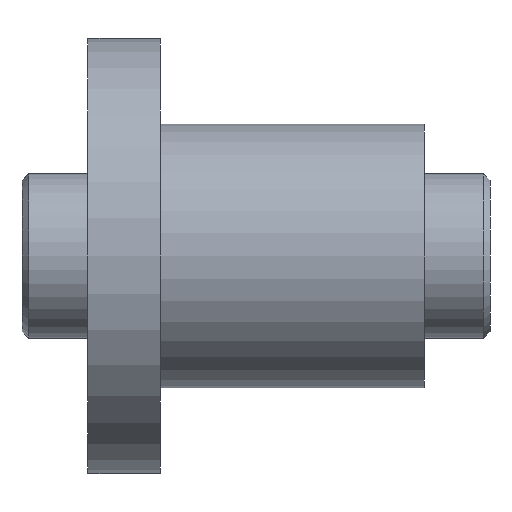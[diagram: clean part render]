
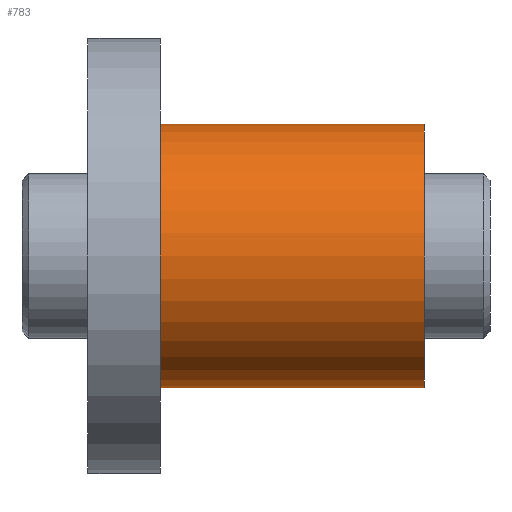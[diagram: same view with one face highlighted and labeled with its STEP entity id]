
A CAD part, front view. The second image highlights one B-rep face of the part: STEP entity #783.
In plain terms, the highlighted cylindrical face has radius 20 mm (diameter 40 mm), a partial arc.
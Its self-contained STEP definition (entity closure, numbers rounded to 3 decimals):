
#90 = LINE ( 'NONE', #2914, #2475 ) ;
#366 = CARTESIAN_POINT ( 'NONE',  ( 51., 0., 0. ) ) ;
#402 = DIRECTION ( 'NONE',  ( 1., 0., 0. ) ) ;
#617 = AXIS2_PLACEMENT_3D ( 'NONE', #3855, #1486, #3841 ) ;
#716 = VERTEX_POINT ( 'NONE', #1561 ) ;
#725 = ORIENTED_EDGE ( 'NONE', *, *, #4030, .F. ) ;
#783 = ADVANCED_FACE ( 'NONE', ( #3535 ), #4126, .T. ) ;
#924 = EDGE_CURVE ( 'NONE', #1762, #3740, #1890, .T. ) ;
#950 = ORIENTED_EDGE ( 'NONE', *, *, #2437, .T. ) ;
#1118 = AXIS2_PLACEMENT_3D ( 'NONE', #3716, #2355, #4071 ) ;
#1364 = ORIENTED_EDGE ( 'NONE', *, *, #924, .T. ) ;
#1486 = DIRECTION ( 'NONE',  ( 1., 0., 0. ) ) ;
#1561 = CARTESIAN_POINT ( 'NONE',  ( 51., 0., -20. ) ) ;
#1762 = VERTEX_POINT ( 'NONE', #1884 ) ;
#1884 = CARTESIAN_POINT ( 'NONE',  ( 11., 0., 20. ) ) ;
#1890 = CIRCLE ( 'NONE', #617, 20. ) ;
#2048 = AXIS2_PLACEMENT_3D ( 'NONE', #366, #402, #2761 ) ;
#2332 = CARTESIAN_POINT ( 'NONE',  ( 51., 0., 20. ) ) ;
#2355 = DIRECTION ( 'NONE',  ( -1., 0., 0. ) ) ;
#2437 = EDGE_CURVE ( 'NONE', #4206, #1762, #2896, .T. ) ;
#2475 = VECTOR ( 'NONE', #3230, 1000. ) ;
#2574 = CARTESIAN_POINT ( 'NONE',  ( 11., 0., -20. ) ) ;
#2696 = ORIENTED_EDGE ( 'NONE', *, *, #3798, .F. ) ;
#2761 = DIRECTION ( 'NONE',  ( 0., 0., -1. ) ) ;
#2896 = LINE ( 'NONE', #3088, #3893 ) ;
#2914 = CARTESIAN_POINT ( 'NONE',  ( 107.569, 0., -20. ) ) ;
#3088 = CARTESIAN_POINT ( 'NONE',  ( 107.569, 0., 20. ) ) ;
#3230 = DIRECTION ( 'NONE',  ( -1., 0., 0. ) ) ;
#3416 = DIRECTION ( 'NONE',  ( -1., 0., 0. ) ) ;
#3434 = EDGE_LOOP ( 'NONE', ( #2696, #725, #950, #1364 ) ) ;
#3535 = FACE_OUTER_BOUND ( 'NONE', #3434, .T. ) ;
#3716 = CARTESIAN_POINT ( 'NONE',  ( 107.569, 0., 0. ) ) ;
#3740 = VERTEX_POINT ( 'NONE', #2574 ) ;
#3798 = EDGE_CURVE ( 'NONE', #716, #3740, #90, .T. ) ;
#3841 = DIRECTION ( 'NONE',  ( 0., 0., 1. ) ) ;
#3855 = CARTESIAN_POINT ( 'NONE',  ( 11., 0., 0. ) ) ;
#3893 = VECTOR ( 'NONE', #3416, 1000. ) ;
#4030 = EDGE_CURVE ( 'NONE', #4206, #716, #4075, .T. ) ;
#4071 = DIRECTION ( 'NONE',  ( 0., 0., 1. ) ) ;
#4075 = CIRCLE ( 'NONE', #2048, 20. ) ;
#4126 = CYLINDRICAL_SURFACE ( 'NONE', #1118, 20. ) ;
#4206 = VERTEX_POINT ( 'NONE', #2332 ) ;
